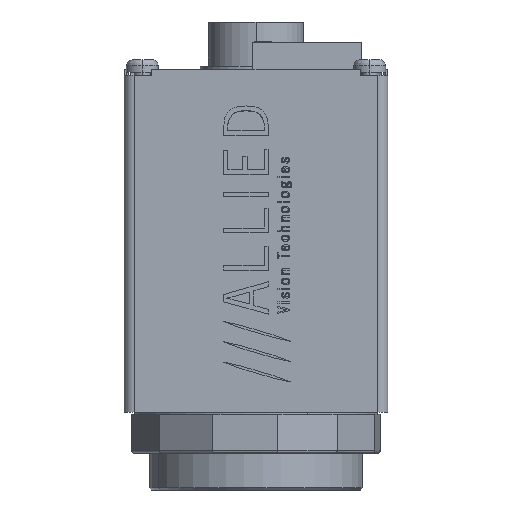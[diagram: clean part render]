
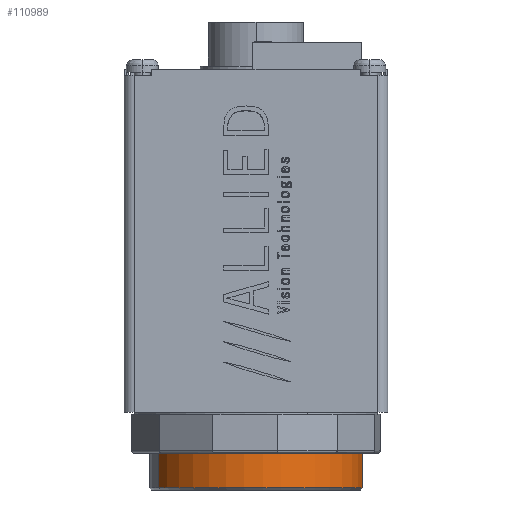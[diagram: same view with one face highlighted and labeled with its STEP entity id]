
A CAD part, left-side view. The second image highlights one B-rep face of the part: STEP entity #110989.
In plain terms, the highlighted cylindrical face has radius 13.335 mm (diameter 26.67 mm), a partial arc.
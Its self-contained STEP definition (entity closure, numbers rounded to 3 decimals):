
#1010 = EDGE_CURVE ( 'NONE', #142810, #148864, #104729, .T. ) ;
#3722 = ORIENTED_EDGE ( 'NONE', *, *, #52713, .F. ) ;
#4104 = EDGE_LOOP ( 'NONE', ( #3722, #102576, #155136, #174105 ) ) ;
#6493 = DIRECTION ( 'NONE',  ( 1., 0., 0. ) ) ;
#11275 = AXIS2_PLACEMENT_3D ( 'NONE', #47323, #47147, #46941 ) ;
#19962 = DIRECTION ( 'NONE',  ( 0., 0., 1. ) ) ;
#33491 = LINE ( 'NONE', #167971, #138860 ) ;
#37042 = CARTESIAN_POINT ( 'NONE',  ( -13.335, 0., 13.386 ) ) ;
#46941 = DIRECTION ( 'NONE',  ( 1., 0., 0. ) ) ;
#47147 = DIRECTION ( 'NONE',  ( 0., 0., 1. ) ) ;
#47323 = CARTESIAN_POINT ( 'NONE',  ( 0., 0., 7.214 ) ) ;
#50922 = DIRECTION ( 'NONE',  ( 0., 0., -1. ) ) ;
#52137 = VERTEX_POINT ( 'NONE', #37042 ) ;
#52614 = AXIS2_PLACEMENT_3D ( 'NONE', #102910, #19962, #6493 ) ;
#52713 = EDGE_CURVE ( 'NONE', #142810, #52137, #55734, .T. ) ;
#55734 = LINE ( 'NONE', #150318, #92246 ) ;
#59833 = VERTEX_POINT ( 'NONE', #136399 ) ;
#92246 = VECTOR ( 'NONE', #150482, 1000. ) ;
#96001 = FACE_OUTER_BOUND ( 'NONE', #4104, .T. ) ;
#100060 = CIRCLE ( 'NONE', #154846, 13.335 ) ;
#100892 = DIRECTION ( 'NONE',  ( 0., 0., 1. ) ) ;
#102576 = ORIENTED_EDGE ( 'NONE', *, *, #1010, .T. ) ;
#102910 = CARTESIAN_POINT ( 'NONE',  ( 0., 0., 7.214 ) ) ;
#104729 = CIRCLE ( 'NONE', #11275, 13.335 ) ;
#110989 = ADVANCED_FACE ( 'NONE', ( #96001 ), #115332, .T. ) ;
#115332 = CYLINDRICAL_SURFACE ( 'NONE', #52614, 13.335 ) ;
#133080 = CARTESIAN_POINT ( 'NONE',  ( 0., 0., 13.386 ) ) ;
#136399 = CARTESIAN_POINT ( 'NONE',  ( 13.335, 0., 13.386 ) ) ;
#138860 = VECTOR ( 'NONE', #100892, 1000. ) ;
#140639 = CARTESIAN_POINT ( 'NONE',  ( -13.335, 0., 7.214 ) ) ;
#142810 = VERTEX_POINT ( 'NONE', #140639 ) ;
#146655 = DIRECTION ( 'NONE',  ( 1., 0., 0. ) ) ;
#148269 = EDGE_CURVE ( 'NONE', #148864, #59833, #33491, .T. ) ;
#148864 = VERTEX_POINT ( 'NONE', #174406 ) ;
#150318 = CARTESIAN_POINT ( 'NONE',  ( -13.335, 0., 7.214 ) ) ;
#150482 = DIRECTION ( 'NONE',  ( 0., 0., 1. ) ) ;
#154846 = AXIS2_PLACEMENT_3D ( 'NONE', #133080, #50922, #146655 ) ;
#155136 = ORIENTED_EDGE ( 'NONE', *, *, #148269, .T. ) ;
#167971 = CARTESIAN_POINT ( 'NONE',  ( 13.335, 0., 7.214 ) ) ;
#169642 = EDGE_CURVE ( 'NONE', #59833, #52137, #100060, .T. ) ;
#174105 = ORIENTED_EDGE ( 'NONE', *, *, #169642, .T. ) ;
#174406 = CARTESIAN_POINT ( 'NONE',  ( 13.335, 0., 7.214 ) ) ;
